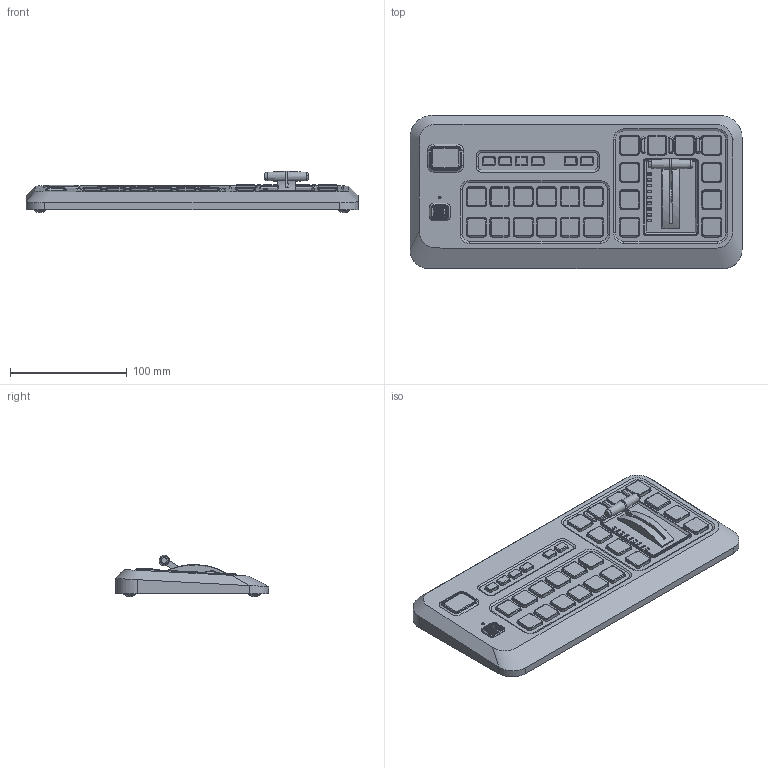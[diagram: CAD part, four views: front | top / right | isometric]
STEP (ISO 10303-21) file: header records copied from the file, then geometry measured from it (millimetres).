
FILE_DESCRIPTION(/* description */ ('STEP AP214','CAx-IF Rec.Pracs.---Representation and Presentation of Product Manufacturing Information (PMI)---4.0---2014-10-13'),/* implementation_level */ '2;1');
FILE_NAME(/* name */ 'MAKI Studio Control Surface.step',/* time_stamp */ '2025-03-28T14:45:29+11:00',/* author */ (''),/* organization */ (''),/* preprocessor_version */ 'ST-DEVELOPER v20',/* originating_system */ 'Autodesk Translation Framework v13.20.0.188',/* authorisation */ '');
FILE_SCHEMA (('AP242_MANAGED_MODEL_BASED_3D_ENGINEERING_MIM_LF { 1 0 10303 442 1 1 4 }'));
Products named in the file (19): FB240722-00 ×Ü×°Åä; FB230814_E002 ____________.STEP.STEP; ML02-1052 __________.STEP.STEP; FB230814_E002 ____________-0.STEP.STEP; FB230814-01 T__________.STEP.STEP; FB230814_B002 ______-A__.STEP.STEP; FB230814_A003 ________A-C__.STEP.STEP; FB230814_A004 ________B.STEP.STEP; FB230722_A001 ____.STEP.STEP; FB230814_A002 ______-A__.STEP.STEP; __________.STEP.STEP; FB230814_E003 type-c__.STEP.STEP; __________h3.4.STEP.STEP; FB240722_A002 ____.STEP.STEP; FB240722_D001 ______-TO______.STEP; ______.STEP.STEP; __________-2.STEP.STEP; MW01-0019 ____.STEP.STEP; M3x5D=5.5_________________M3__4.STEP
Assembly tree (42 placements, depth 3):
  FB240722-00 ×Ü×°Åä
    FB230814_E002 ____________.STEP.STEP
      ML02-1052 __________.STEP.STEP
      FB230814_E002 ____________-0.STEP.STEP
    FB230814-01 T__________.STEP.STEP
      FB230814_B002 ______-A__.STEP.STEP
      FB230814_A003 ________A-C__.STEP.STEP
      FB230814_A004 ________B.STEP.STEP
    FB230722_A001 ____.STEP.STEP
    FB230814_A002 ______-A__.STEP.STEP
    ______.STEP.STEP  x9
    __________.STEP.STEP
    FB230814_E003 type-c__.STEP.STEP
    __________-2.STEP.STEP  x2
    __________h3.4.STEP.STEP
    FB240722_A002 ____.STEP.STEP
    MW01-0019 ____.STEP.STEP  x4
    FB240722_D001 ______-TO______.STEP
    M3x5D=5.5_________________M3__4.STEP  x13
Bounding box: 284 x 131 x 35.33 mm (x, y, z)
Volume: 559675 mm3; surface area: 236478.3 mm2
Topology: 45 solids, 46 shells, 2510 faces, 6074 edges, 3767 vertices
Faces by surface type: plane 1443, cylinder 714, cone 201, torus 130, bspline 22
Full cylindrical faces by diameter (mm): 1.5 x5, 1.55 x2, 2.1 x2, 2.2 x1, 2.5 x5, 3 x14, 3.3 x13, 5 x2, 5.2 x2, 5.3 x14, 6.5 x1, 9.8 x4, 10.05 x4, 11.5 x1
Entity records: 62385 total; most frequent: CARTESIAN_POINT 13031, DIRECTION 10609, ORIENTED_EDGE 9936, EDGE_CURVE 4968, AXIS2_PLACEMENT_3D 3784, VERTEX_POINT 3149, LINE 3041, VECTOR 3041
